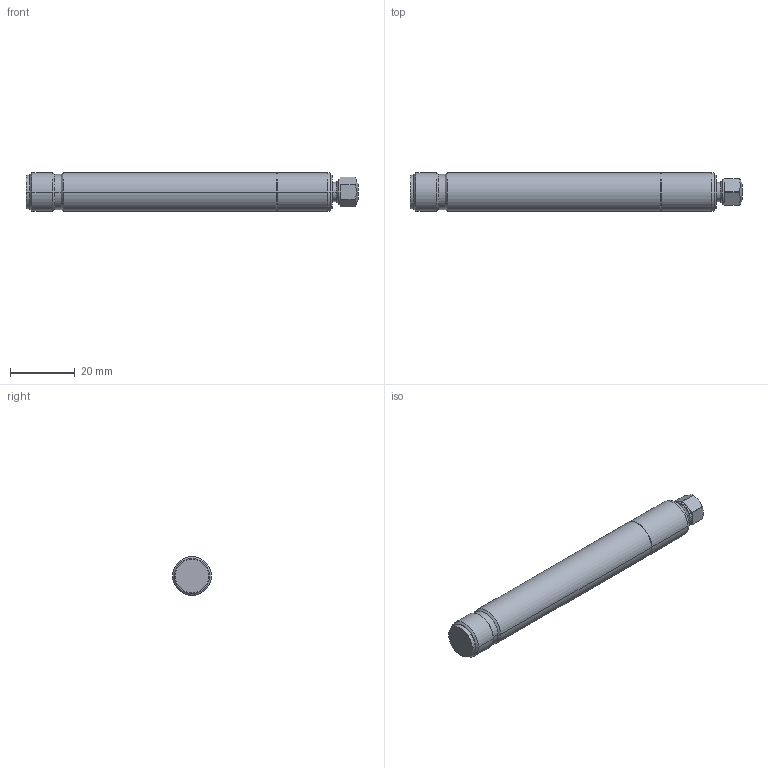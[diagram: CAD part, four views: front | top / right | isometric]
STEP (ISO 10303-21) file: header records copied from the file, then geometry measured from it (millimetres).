
FILE_DESCRIPTION((''),'2;1');
FILE_NAME('0000083826','2015-03-03T',('11000509'),(''),'PRO/ENGINEER BY PARAMETRIC TECHNOLOGY CORPORATION, 2013230','PRO/ENGINEER BY PARAMETRIC TECHNOLOGY CORPORATION, 2013230','');
FILE_SCHEMA(('AUTOMOTIVE_DESIGN { 1 0 10303 214 1 1 1 1 }'));
Length unit declared in the file: millimetre
Products named in the file (1): 0000083826
Bounding box: 102.2 x 12 x 12 mm (x, y, z)
Volume: 10898.6 mm3; surface area: 3982.4 mm2
Topology: 1 solids, 1 shells, 58 faces, 126 edges, 76 vertices
Faces by surface type: cylinder 22, cone 16, plane 14, torus 4, sphere 2
Entity records: 2204 total; most frequent: DIRECTION 318, CARTESIAN_POINT 262, ORIENTED_EDGE 252, AXIS2_PLACEMENT_3D 134, EDGE_CURVE 126, PROPERTY_DEFINITION 97, REPRESENTATION 96, PROPERTY_DEFINITION_REPRESENTATION 96
